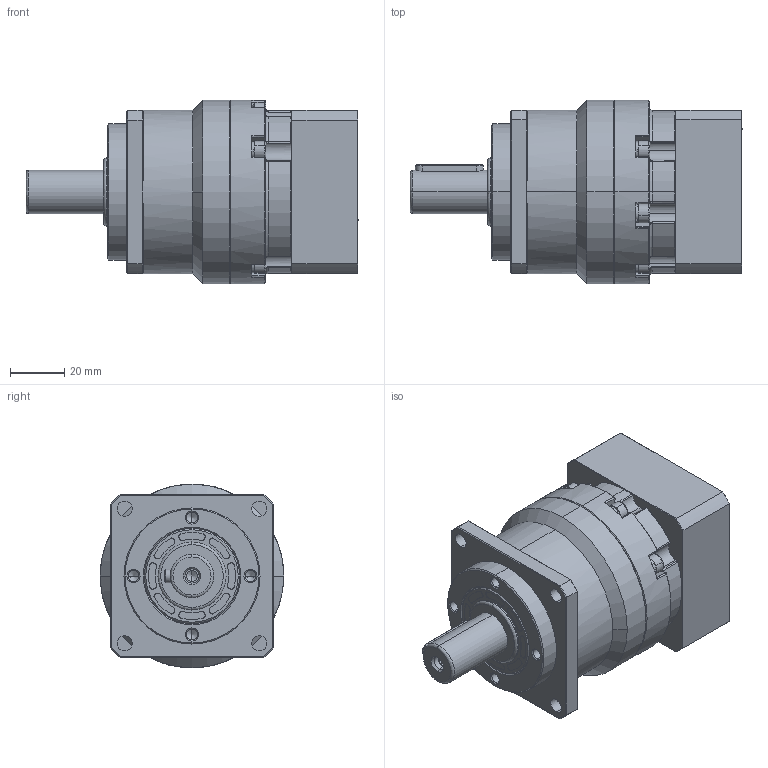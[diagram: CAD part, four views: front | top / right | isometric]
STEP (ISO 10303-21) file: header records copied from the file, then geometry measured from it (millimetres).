
FILE_DESCRIPTION (( 'STEP AP214' ), '1' );
FILE_NAME ('VRB-060-L1-S2-P1 14-50-70-M4.STEP', '2023-10-20T03:27:26', ( '微软用户' ), ( '微软中国' ), 'SwSTEP 2.0', 'SolidWorks 2018', '' );
FILE_SCHEMA (( 'AUTOMOTIVE_DESIGN' ));
Length unit declared in the file: millimetre
Products named in the file (11): hexagon socket head cap screws gb_GB_FASTENER_SCREWS_HSHCS M5X16-N.STEP; VRB-060-L1-S2-P1 14-50-70-M4; spring lock washers--normal type gb_GB_FASTENER_WASHER_SW 4.STEP; ________________________ KB60D14.STEP; ____________VRB-060______.STEP; ________ VRB-060______.STEP; ________ PAB060-D50-M4-70F60H24.5.STEP; hexagon socket head cap screws gb_GB_FASTENER_SCREWS_HSHCS M4X16-N.STEP; VRB-060-L1-50-14-37-M4-70 俋倛芞.STEP; hex socket set screws with flat point gb_GB_FASTENER_SCREWS_HSFP M10X10-N.STEP; hexagon socket head cap screws gb_GB_FASTENER_SCREWS_HSHCS M4X20-N.STEP
Assembly tree (31 placements, depth 3):
  VRB-060-L1-S2-P1 14-50-70-M4
    VRB-060-L1-50-14-37-M4-70 俋倛芞.STEP
      ____________VRB-060______.STEP
      ________ VRB-060______.STEP
      ________ PAB060-D50-M4-70F60H24.5.STEP
      ________________________ KB60D14.STEP
      hexagon socket head cap screws gb_GB_FASTENER_SCREWS_HSHCS M5X16-N.STEP
      hexagon socket head cap screws gb_GB_FASTENER_SCREWS_HSHCS M4X20-N.STEP  x6
      spring lock washers--normal type gb_GB_FASTENER_WASHER_SW 4.STEP  x12
      hexagon socket head cap screws gb_GB_FASTENER_SCREWS_HSHCS M4X16-N.STEP  x6
      hex socket set screws with flat point gb_GB_FASTENER_SCREWS_HSFP M10X10-N.STEP
Bounding box: 122 x 67.5 x 67.5 mm (x, y, z)
Volume: 237671.8 mm3; surface area: 67765.7 mm2
Topology: 32 solids, 32 shells, 1076 faces, 2636 edges, 1630 vertices
Faces by surface type: plane 407, cylinder 396, cone 209, bspline 64
Entity records: 31194 total; most frequent: CARTESIAN_POINT 5521, DIRECTION 3799, ORIENTED_EDGE 3548, EDGE_CURVE 1774, AXIS2_PLACEMENT_3D 1515, VERTEX_POINT 1124, CIRCLE 808, EDGE_LOOP 804
